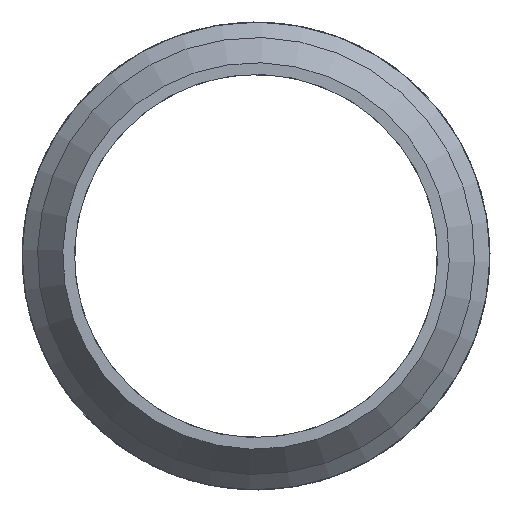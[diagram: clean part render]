
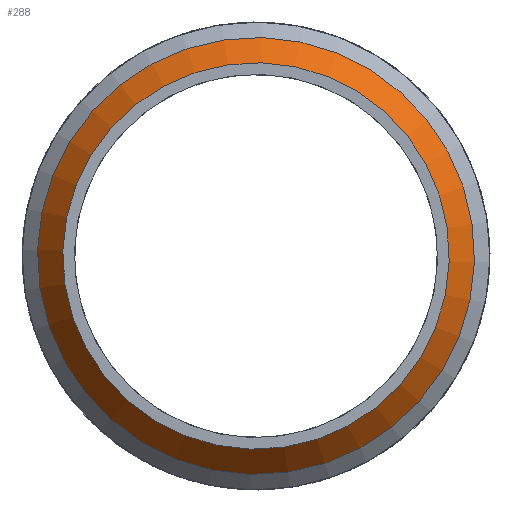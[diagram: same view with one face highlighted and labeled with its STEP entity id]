
A CAD part, front view. The second image highlights one B-rep face of the part: STEP entity #288.
In plain terms, the highlighted conical face has half-angle 37.5 degrees and reference radius 19.864 mm.
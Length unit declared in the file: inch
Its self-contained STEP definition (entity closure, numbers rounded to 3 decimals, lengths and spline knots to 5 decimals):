
#39=FACE_BOUND('',#89,.T.);
#63=FACE_OUTER_BOUND('',#88,.T.);
#88=EDGE_LOOP('',(#208));
#89=EDGE_LOOP('',(#209));
#136=CIRCLE('',#321,0.83);
#137=CIRCLE('',#322,0.73408);
#160=VERTEX_POINT('',#470);
#161=VERTEX_POINT('',#472);
#184=EDGE_CURVE('',#160,#160,#136,.T.);
#185=EDGE_CURVE('',#161,#161,#137,.T.);
#208=ORIENTED_EDGE('',*,*,#184,.T.);
#209=ORIENTED_EDGE('',*,*,#185,.T.);
#255=CONICAL_SURFACE('',#320,0.78204,37.5);
#288=ADVANCED_FACE('',(#63,#39),#255,.T.);
#320=AXIS2_PLACEMENT_3D('',#469,#373,#374);
#321=AXIS2_PLACEMENT_3D('',#471,#375,#376);
#322=AXIS2_PLACEMENT_3D('',#473,#377,#378);
#373=DIRECTION('center_axis',(0.,1.,0.));
#374=DIRECTION('ref_axis',(-0.98,0.,0.201));
#375=DIRECTION('center_axis',(0.,-1.,0.));
#376=DIRECTION('ref_axis',(-0.98,0.,0.201));
#377=DIRECTION('center_axis',(0.,1.,0.));
#378=DIRECTION('ref_axis',(-0.98,0.,0.201));
#469=CARTESIAN_POINT('Origin',(0.,0.0625,
0.));
#470=CARTESIAN_POINT('',(0.81304,0.125,-0.16692));
#471=CARTESIAN_POINT('Origin',(0.,0.125,0.));
#472=CARTESIAN_POINT('',(0.71909,0.,-0.14763));
#473=CARTESIAN_POINT('Origin',(0.,0.,
0.));
